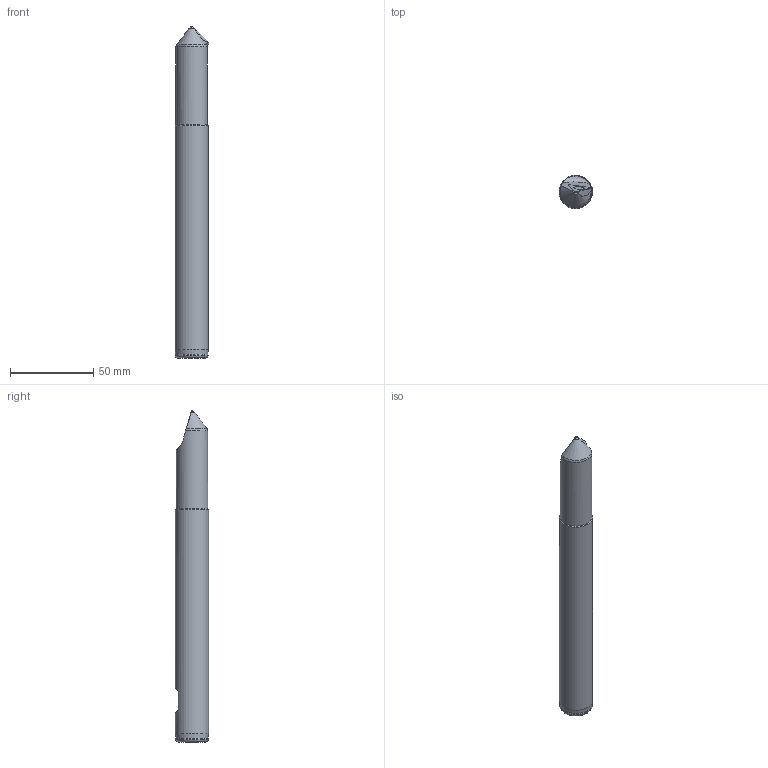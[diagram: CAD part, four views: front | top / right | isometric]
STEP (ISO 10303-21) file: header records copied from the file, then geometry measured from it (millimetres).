
FILE_DESCRIPTION(/* description */ (''),/* implementation_level */ '2;1');
FILE_NAME(/* name */ 'CE45-1600R-L20-HAAS.stp',/* time_stamp */ '2021-09-28T15:58:27+09:00',/* author */ (''),/* organization */ (''),/* preprocessor_version */ 'ST-DEVELOPER v11',/* originating_system */ 'SIEMENS UGS NX 6.0',/* authorisation */ '');
FILE_SCHEMA (('CONFIG_CONTROL_DESIGN'));
Length unit declared in the file: millimetre
Products named in the file (1): userC0792fes
Bounding box: 20.39 x 20 x 200 mm (x, y, z)
Volume: 57798.8 mm3; surface area: 12701.2 mm2
Topology: 2 solids, 2 shells, 38 faces, 94 edges, 61 vertices
Faces by surface type: plane 20, cone 10, cylinder 5, torus 3
Full cylindrical faces by diameter (mm): 6.25 x1, 19 x1, 19.8 x1, 20 x1
Entity records: 1222 total; most frequent: CARTESIAN_POINT 284, DIRECTION 173, ORIENTED_EDGE 168, EDGE_CURVE 84, AXIS2_PLACEMENT_3D 69, VERTEX_POINT 59, EDGE_LOOP 49, ADVANCED_FACE 38
